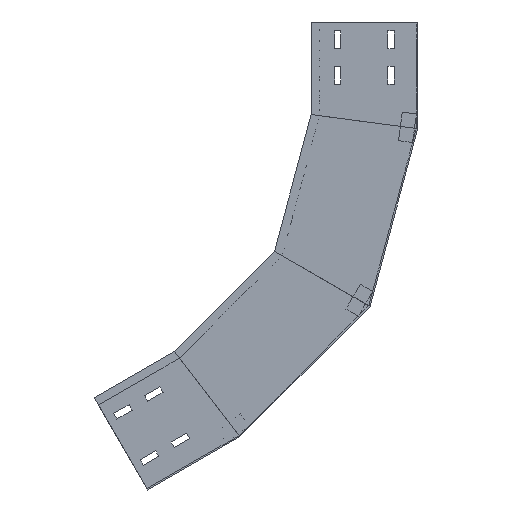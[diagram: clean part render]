
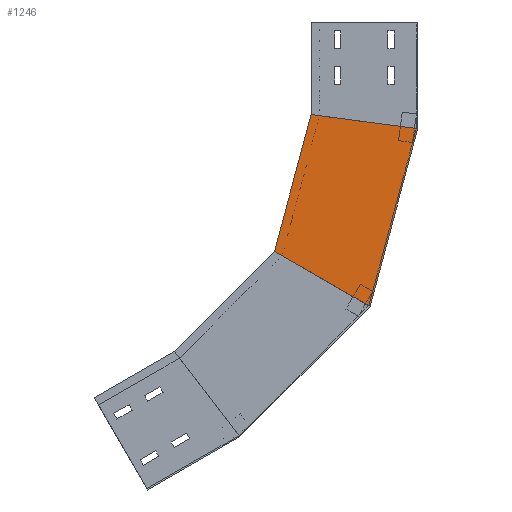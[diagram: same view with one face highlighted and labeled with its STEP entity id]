
A CAD part, left-side view. The second image highlights one B-rep face of the part: STEP entity #1246.
In plain terms, the highlighted planar face has unit normal (-1, 0, 0) as drawn and (1, 0, 0) by its records, which use the part's own axes.
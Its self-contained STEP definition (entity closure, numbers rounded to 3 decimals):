
#43 = CARTESIAN_POINT ( 'NONE',  ( 0., 67.034, -400.175 ) ) ;
#108 = VERTEX_POINT ( 'NONE', #110 ) ;
#110 = CARTESIAN_POINT ( 'NONE',  ( 0., 201.52, -322.529 ) ) ;
#123 = CARTESIAN_POINT ( 'NONE',  ( 0., 250.175, -583.315 ) ) ;
#327 = CARTESIAN_POINT ( 'NONE',  ( 0., 67.034, -400.175 ) ) ;
#419 = CARTESIAN_POINT ( 'NONE',  ( 0., 270.755, -556.495 ) ) ;
#593 = EDGE_CURVE ( 'NONE', #970, #1741, #1968, .T. ) ;
#606 = AXIS2_PLACEMENT_3D ( 'NONE', #43, #1989, #2124 ) ;
#673 = EDGE_CURVE ( 'NONE', #108, #1878, #2167, .T. ) ;
#732 = VECTOR ( 'NONE', #789, 1000. ) ;
#742 = FACE_OUTER_BOUND ( 'NONE', #2086, .T. ) ;
#752 = CARTESIAN_POINT ( 'NONE',  ( 0., 67.034, -400.175 ) ) ;
#759 = EDGE_CURVE ( 'NONE', #108, #970, #1381, .T. ) ;
#789 = DIRECTION ( 'NONE',  ( 0., 0.707, -0.707 ) ) ;
#970 = VERTEX_POINT ( 'NONE', #1694 ) ;
#1004 = CARTESIAN_POINT ( 'NONE',  ( 0., 125.087, -366.658 ) ) ;
#1035 = DIRECTION ( 'NONE',  ( 0., 0.707, -0.707 ) ) ;
#1048 = ORIENTED_EDGE ( 'NONE', *, *, #593, .F. ) ;
#1115 = VECTOR ( 'NONE', #1121, 1000. ) ;
#1121 = DIRECTION ( 'NONE',  ( 0., -0.609, -0.793 ) ) ;
#1141 = ORIENTED_EDGE ( 'NONE', *, *, #1702, .T. ) ;
#1209 = CARTESIAN_POINT ( 'NONE',  ( 0., 173.1, -294.109 ) ) ;
#1246 = ADVANCED_FACE ( 'NONE', ( #742 ), #2144, .F. ) ;
#1337 = DIRECTION ( 'NONE',  ( 0., -0.866, -0.5 ) ) ;
#1381 = LINE ( 'NONE', #1209, #1618 ) ;
#1391 = ORIENTED_EDGE ( 'NONE', *, *, #759, .F. ) ;
#1392 = ORIENTED_EDGE ( 'NONE', *, *, #673, .T. ) ;
#1618 = VECTOR ( 'NONE', #1035, 1000. ) ;
#1642 = LINE ( 'NONE', #752, #732 ) ;
#1694 = CARTESIAN_POINT ( 'NONE',  ( 0., 342.277, -463.286 ) ) ;
#1702 = EDGE_CURVE ( 'NONE', #1878, #1741, #1642, .T. ) ;
#1741 = VERTEX_POINT ( 'NONE', #123 ) ;
#1878 = VERTEX_POINT ( 'NONE', #327 ) ;
#1968 = LINE ( 'NONE', #419, #1115 ) ;
#1989 = DIRECTION ( 'NONE',  ( -1., 0., 0. ) ) ;
#2005 = VECTOR ( 'NONE', #1337, 1000. ) ;
#2086 = EDGE_LOOP ( 'NONE', ( #1391, #1392, #1141, #1048 ) ) ;
#2124 = DIRECTION ( 'NONE',  ( 0., 0., 1. ) ) ;
#2144 = PLANE ( 'NONE',  #606 ) ;
#2167 = LINE ( 'NONE', #1004, #2005 ) ;
